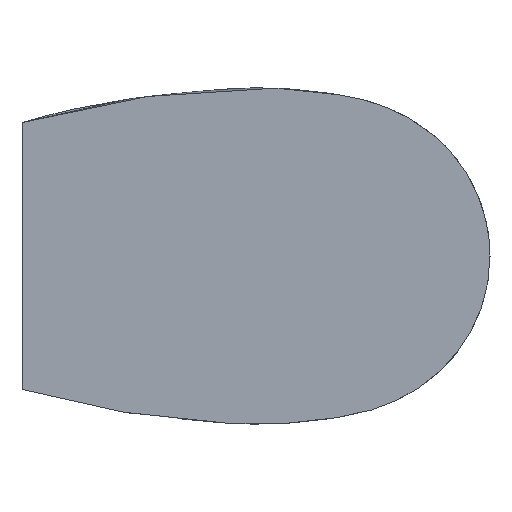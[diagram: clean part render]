
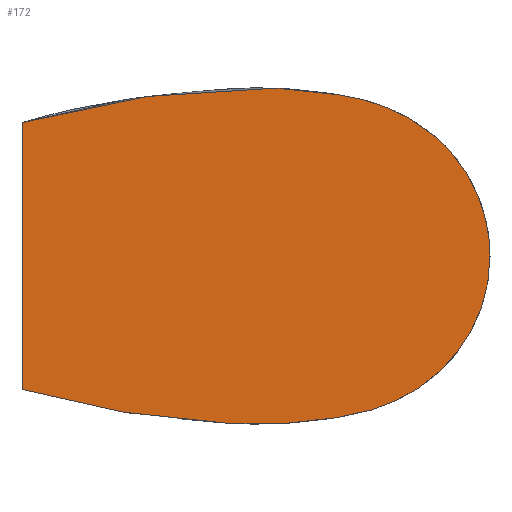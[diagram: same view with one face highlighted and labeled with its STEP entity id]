
A CAD part, left-side view. The second image highlights one B-rep face of the part: STEP entity #172.
In plain terms, the highlighted planar face has unit normal (-1, 0, 0).
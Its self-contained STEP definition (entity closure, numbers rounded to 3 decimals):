
#6=DIRECTION('',(0.,0.,1.));
#7=VECTOR('',#6,1.728);
#8=CARTESIAN_POINT('',(-9.,-0.3,-0.864));
#9=LINE('',#8,#7);
#10=CARTESIAN_POINT('',(-9.,-0.3,0.864));
#11=CARTESIAN_POINT('',(-9.,-0.42,0.9));
#12=CARTESIAN_POINT('',(-9.,-0.661,0.961));
#13=CARTESIAN_POINT('',(-9.,-0.968,1.015));
#14=CARTESIAN_POINT('',(-9.,-1.184,1.041));
#15=CARTESIAN_POINT('',(-9.,-1.31,1.053));
#16=CARTESIAN_POINT('',(-9.,-1.405,1.061));
#17=CARTESIAN_POINT('',(-9.,-1.502,1.071));
#18=CARTESIAN_POINT('',(-9.,-1.633,1.084));
#19=CARTESIAN_POINT('',(-9.,-1.816,1.091));
#20=CARTESIAN_POINT('',(-9.,-2.052,1.085));
#21=CARTESIAN_POINT('',(-9.,-2.264,1.06));
#22=CARTESIAN_POINT('',(-9.,-2.435,1.029));
#23=CARTESIAN_POINT('',(-9.,-2.608,0.988));
#24=CARTESIAN_POINT('',(-9.,-2.816,0.899));
#25=CARTESIAN_POINT('',(-9.,-3.033,0.735));
#26=CARTESIAN_POINT('',(-9.,-3.173,0.556));
#27=CARTESIAN_POINT('',(-9.,-3.254,0.394));
#28=CARTESIAN_POINT('',(-9.,-3.297,0.266));
#29=CARTESIAN_POINT('',(-9.,-3.324,0.134));
#30=CARTESIAN_POINT('',(-9.,-3.329,0.044));
#31=CARTESIAN_POINT('',(-9.,-3.329,0.));
#33=CARTESIAN_POINT('',(-9.,-3.329,0.));
#34=CARTESIAN_POINT('',(-9.,-3.329,-0.044));
#35=CARTESIAN_POINT('',(-9.,-3.324,-0.134));
#36=CARTESIAN_POINT('',(-9.,-3.297,-0.266));
#37=CARTESIAN_POINT('',(-9.,-3.254,-0.394));
#38=CARTESIAN_POINT('',(-9.,-3.173,-0.556));
#39=CARTESIAN_POINT('',(-9.,-3.033,-0.735));
#40=CARTESIAN_POINT('',(-9.,-2.816,-0.899));
#41=CARTESIAN_POINT('',(-9.,-2.608,-0.988));
#42=CARTESIAN_POINT('',(-9.,-2.435,-1.029));
#43=CARTESIAN_POINT('',(-9.,-2.264,-1.06));
#44=CARTESIAN_POINT('',(-9.,-2.052,-1.085));
#45=CARTESIAN_POINT('',(-9.,-1.816,-1.091));
#46=CARTESIAN_POINT('',(-9.,-1.633,-1.084));
#47=CARTESIAN_POINT('',(-9.,-1.502,-1.071));
#48=CARTESIAN_POINT('',(-9.,-1.405,-1.061));
#49=CARTESIAN_POINT('',(-9.,-1.31,-1.053));
#50=CARTESIAN_POINT('',(-9.,-1.184,-1.041));
#51=CARTESIAN_POINT('',(-9.,-0.968,-1.015));
#52=CARTESIAN_POINT('',(-9.,-0.661,-0.961));
#53=CARTESIAN_POINT('',(-9.,-0.42,-0.9));
#54=CARTESIAN_POINT('',(-9.,-0.3,-0.864));
#137=CARTESIAN_POINT('',(-9.,-0.3,-0.864));
#138=CARTESIAN_POINT('',(-9.,-0.3,0.864));
#139=VERTEX_POINT('',#137);
#140=VERTEX_POINT('',#138);
#141=VERTEX_POINT('',#33);
#160=CARTESIAN_POINT('',(-9.,0.,0.));
#161=DIRECTION('',(1.,0.,0.));
#162=DIRECTION('',(0.,0.,-1.));
#163=AXIS2_PLACEMENT_3D('',#160,#161,#162);
#164=PLANE('',#163);
#165=ORIENTED_EDGE('',*,*,#147,.T.);
#167=ORIENTED_EDGE('',*,*,#166,.T.);
#169=ORIENTED_EDGE('',*,*,#168,.T.);
#170=EDGE_LOOP('',(#165,#167,#169));
#171=FACE_OUTER_BOUND('',#170,.F.);
#172=ADVANCED_FACE('',(#171),#164,.F.);
#32=B_SPLINE_CURVE_WITH_KNOTS('',3,(#10,#11,#12,#13,#14,#15,#16,#17,#18,#19,#20,
#21,#22,#23,#24,#25,#26,#27,#28,#29,#30,#31),.UNSPECIFIED.,.F.,.F.,(4,1,1,1,1,1,
1,1,1,1,1,1,1,1,1,1,1,1,1,4),(0.,0.103,0.205,
0.257,0.283,0.309,0.336,
0.363,0.418,0.486,0.557,
0.594,0.63,0.704,0.778,
0.852,0.889,0.926,0.963,1.),
.UNSPECIFIED.);
#55=B_SPLINE_CURVE_WITH_KNOTS('',3,(#33,#34,#35,#36,#37,#38,#39,#40,#41,#42,#43,
#44,#45,#46,#47,#48,#49,#50,#51,#52,#53,#54),.UNSPECIFIED.,.F.,.F.,(4,1,1,1,1,1,
1,1,1,1,1,1,1,1,1,1,1,1,1,4),(0.,0.037,0.074,
0.111,0.148,0.222,0.296,
0.37,0.406,0.443,0.514,
0.582,0.637,0.664,0.691,
0.717,0.743,0.795,0.897,1.),
.UNSPECIFIED.);
#147=EDGE_CURVE('',#139,#140,#9,.T.);
#166=EDGE_CURVE('',#140,#141,#32,.T.);
#168=EDGE_CURVE('',#141,#139,#55,.T.);
